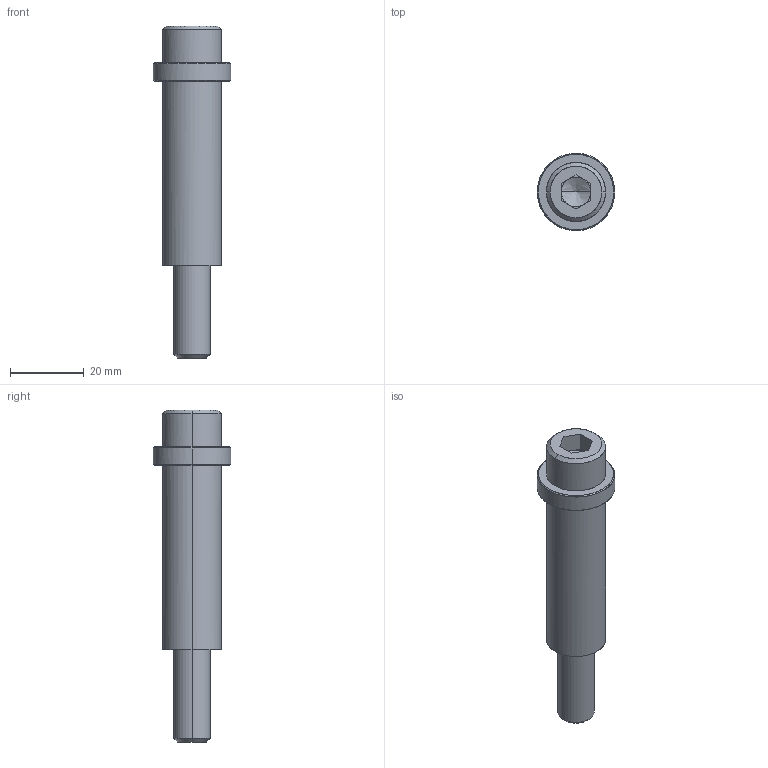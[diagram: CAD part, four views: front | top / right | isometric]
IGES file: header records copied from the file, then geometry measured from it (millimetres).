
Global section: file name: E:\UnigraphicsGraphicData\MISUMI_PRESS-PARTS\IGES\3d_sbth16-50-80_05161_r00.igs; native system: NX V5.0; preprocessor: UGS NX IGES V5.0; author: MISUMI; date: 20110105.162500; units: millimetre
Bounding box: 21 x 20.96 x 90 mm (x, y, z)
Surface area: 8811.3 mm2 (no closed solid volume)
Topology: 0 solids, 0 shells, 45 faces, 258 edges, 256 vertices
Faces by surface type: bspline 45
